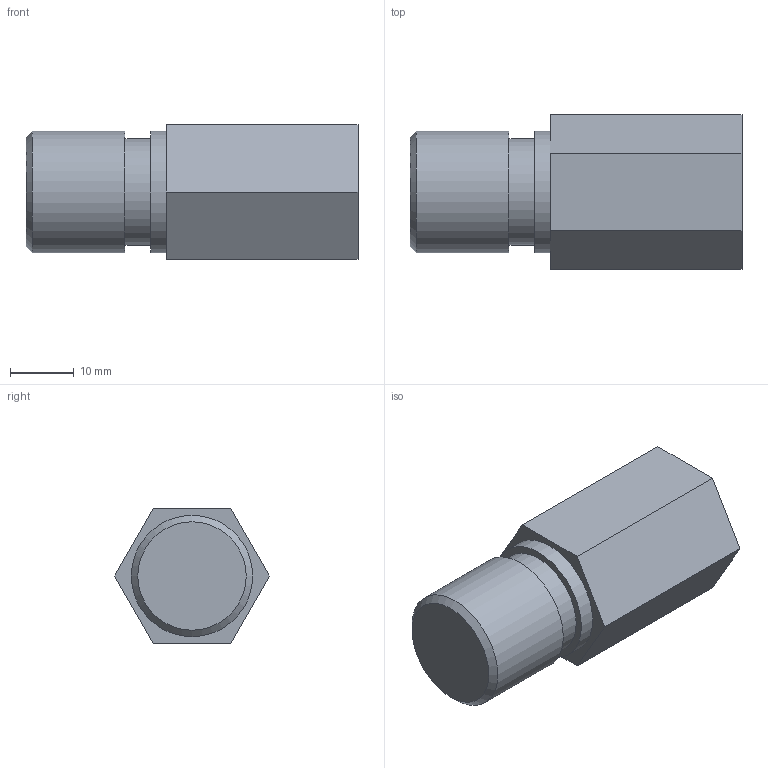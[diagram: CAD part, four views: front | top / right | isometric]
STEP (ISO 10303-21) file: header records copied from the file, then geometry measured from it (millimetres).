
FILE_DESCRIPTION((''),'2;1');
FILE_NAME('Z:\客先\あ行\アオイ\99_その他\3D_DATA\CPR_Series\11CPR-SPV-RC-C\STEP\203\CPR-SPV-RC3-8-C.ipt.stp','2008-07-03T16:30:04',(''),(''),'Autodesk Inventor 2009','Autodesk Inventor 2009','');
FILE_SCHEMA(('CONFIG_CONTROL_DESIGN'));
Length unit declared in the file: millimetre
Products named in the file (1): CPR-SPV-RC3-8-C
Bounding box: 52 x 24.25 x 21 mm (x, y, z)
Volume: 14391.4 mm3; surface area: 5029.3 mm2
Topology: 1 solids, 1 shells, 17 faces, 32 edges, 21 vertices
Faces by surface type: plane 12, cylinder 3, cone 2
Full cylindrical faces by diameter (mm): 16.7 x1, 19 x2
Entity records: 419 total; most frequent: DIRECTION 72, CARTESIAN_POINT 66, ORIENTED_EDGE 54, AXIS2_PLACEMENT_3D 27, EDGE_CURVE 27, EDGE_LOOP 26, VERTEX_POINT 21, VECTOR 18
